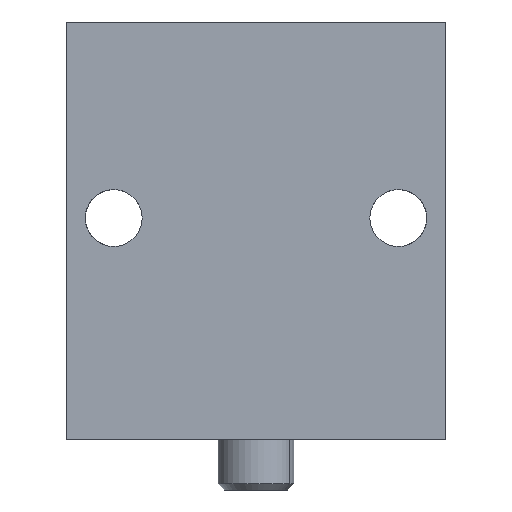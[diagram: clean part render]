
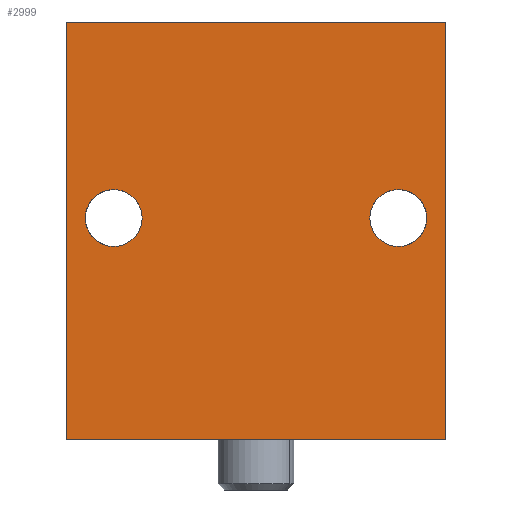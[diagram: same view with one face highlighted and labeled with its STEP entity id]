
A CAD part, front view. The second image highlights one B-rep face of the part: STEP entity #2999.
In plain terms, the highlighted planar face has unit normal (0, -1, 0).
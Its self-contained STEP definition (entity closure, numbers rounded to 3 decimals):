
#332 = DIRECTION ( 'NONE',  ( -1., 0., 0. ) ) ;
#389 = DIRECTION ( 'NONE',  ( 1., 0., 0. ) ) ;
#541 = ORIENTED_EDGE ( 'NONE', *, *, #15201, .T. ) ;
#599 = DIRECTION ( 'NONE',  ( 0., 1., 0. ) ) ;
#954 = VECTOR ( 'NONE', #15921, 1000. ) ;
#1251 = EDGE_CURVE ( 'NONE', #5444, #1320, #1851, .T. ) ;
#1320 = VERTEX_POINT ( 'NONE', #11554 ) ;
#1343 = CARTESIAN_POINT ( 'NONE',  ( 30., 0., -26. ) ) ;
#1360 = DIRECTION ( 'NONE',  ( 0., 1., 0. ) ) ;
#1496 = VECTOR ( 'NONE', #389, 1000. ) ;
#1540 = DIRECTION ( 'NONE',  ( 0., 1., 0. ) ) ;
#1851 = LINE ( 'NONE', #8930, #8679 ) ;
#2277 = EDGE_CURVE ( 'NONE', #12255, #17227, #11603, .T. ) ;
#2999 = ADVANCED_FACE ( 'NONE', ( #9437, #12814, #9827 ), #10833, .F. ) ;
#3028 = EDGE_CURVE ( 'NONE', #17227, #5444, #7222, .T. ) ;
#3096 = CARTESIAN_POINT ( 'NONE',  ( -30., 0., -26. ) ) ;
#3238 = ORIENTED_EDGE ( 'NONE', *, *, #3028, .F. ) ;
#3446 = CARTESIAN_POINT ( 'NONE',  ( -22.5, 0., 4.5 ) ) ;
#3596 = DIRECTION ( 'NONE',  ( 0., 0., 1. ) ) ;
#3727 = EDGE_LOOP ( 'NONE', ( #6651, #541 ) ) ;
#3895 = ORIENTED_EDGE ( 'NONE', *, *, #2277, .F. ) ;
#3919 = CARTESIAN_POINT ( 'NONE',  ( -30., 0., -26. ) ) ;
#4453 = EDGE_CURVE ( 'NONE', #11514, #6748, #11773, .T. ) ;
#4624 = AXIS2_PLACEMENT_3D ( 'NONE', #6283, #15350, #7616 ) ;
#5444 = VERTEX_POINT ( 'NONE', #3919 ) ;
#5608 = EDGE_CURVE ( 'NONE', #12109, #13307, #14463, .T. ) ;
#5788 = AXIS2_PLACEMENT_3D ( 'NONE', #6553, #15599, #7870 ) ;
#5981 = CARTESIAN_POINT ( 'NONE',  ( -30., 0., 40. ) ) ;
#6112 = ORIENTED_EDGE ( 'NONE', *, *, #1251, .F. ) ;
#6215 = CARTESIAN_POINT ( 'NONE',  ( 22.5, 0., 4.5 ) ) ;
#6283 = CARTESIAN_POINT ( 'NONE',  ( -22.5, 0., 9. ) ) ;
#6553 = CARTESIAN_POINT ( 'NONE',  ( 22.5, 0., 9. ) ) ;
#6651 = ORIENTED_EDGE ( 'NONE', *, *, #5608, .T. ) ;
#6748 = VERTEX_POINT ( 'NONE', #3446 ) ;
#7222 = LINE ( 'NONE', #3096, #16302 ) ;
#7616 = DIRECTION ( 'NONE',  ( 0., 0., 1. ) ) ;
#7870 = DIRECTION ( 'NONE',  ( 0., 0., 1. ) ) ;
#8134 = AXIS2_PLACEMENT_3D ( 'NONE', #8808, #599, #10069 ) ;
#8288 = ORIENTED_EDGE ( 'NONE', *, *, #9383, .F. ) ;
#8472 = CARTESIAN_POINT ( 'NONE',  ( 0., 0., 0. ) ) ;
#8679 = VECTOR ( 'NONE', #3596, 1000. ) ;
#8808 = CARTESIAN_POINT ( 'NONE',  ( -22.5, 0., 9. ) ) ;
#8930 = CARTESIAN_POINT ( 'NONE',  ( -30., 0., -26. ) ) ;
#9383 = EDGE_CURVE ( 'NONE', #1320, #12255, #15604, .T. ) ;
#9437 = FACE_BOUND ( 'NONE', #17031, .T. ) ;
#9467 = CARTESIAN_POINT ( 'NONE',  ( 22.5, 0., 9. ) ) ;
#9636 = CIRCLE ( 'NONE', #11647, 4.5 ) ;
#9734 = DIRECTION ( 'NONE',  ( 0., 0., 1. ) ) ;
#9827 = FACE_OUTER_BOUND ( 'NONE', #12294, .T. ) ;
#10069 = DIRECTION ( 'NONE',  ( 0., 0., 1. ) ) ;
#10211 = ORIENTED_EDGE ( 'NONE', *, *, #4453, .T. ) ;
#10323 = EDGE_CURVE ( 'NONE', #6748, #11514, #10888, .T. ) ;
#10731 = DIRECTION ( 'NONE',  ( 0., 0., 1. ) ) ;
#10833 = PLANE ( 'NONE',  #11694 ) ;
#10888 = CIRCLE ( 'NONE', #8134, 4.5 ) ;
#11514 = VERTEX_POINT ( 'NONE', #12309 ) ;
#11554 = CARTESIAN_POINT ( 'NONE',  ( -30., 0., 40. ) ) ;
#11603 = LINE ( 'NONE', #17270, #954 ) ;
#11647 = AXIS2_PLACEMENT_3D ( 'NONE', #9467, #1360, #10731 ) ;
#11694 = AXIS2_PLACEMENT_3D ( 'NONE', #8472, #1540, #9734 ) ;
#11773 = CIRCLE ( 'NONE', #4624, 4.5 ) ;
#12109 = VERTEX_POINT ( 'NONE', #15390 ) ;
#12255 = VERTEX_POINT ( 'NONE', #13626 ) ;
#12294 = EDGE_LOOP ( 'NONE', ( #6112, #3238, #3895, #8288 ) ) ;
#12309 = CARTESIAN_POINT ( 'NONE',  ( -22.5, 0., 13.5 ) ) ;
#12814 = FACE_BOUND ( 'NONE', #3727, .T. ) ;
#13307 = VERTEX_POINT ( 'NONE', #6215 ) ;
#13626 = CARTESIAN_POINT ( 'NONE',  ( 30., 0., 40. ) ) ;
#14463 = CIRCLE ( 'NONE', #5788, 4.5 ) ;
#15013 = ORIENTED_EDGE ( 'NONE', *, *, #10323, .T. ) ;
#15201 = EDGE_CURVE ( 'NONE', #13307, #12109, #9636, .T. ) ;
#15350 = DIRECTION ( 'NONE',  ( 0., 1., 0. ) ) ;
#15390 = CARTESIAN_POINT ( 'NONE',  ( 22.5, 0., 13.5 ) ) ;
#15599 = DIRECTION ( 'NONE',  ( 0., 1., 0. ) ) ;
#15604 = LINE ( 'NONE', #5981, #1496 ) ;
#15921 = DIRECTION ( 'NONE',  ( 0., 0., -1. ) ) ;
#16302 = VECTOR ( 'NONE', #332, 1000. ) ;
#17031 = EDGE_LOOP ( 'NONE', ( #10211, #15013 ) ) ;
#17227 = VERTEX_POINT ( 'NONE', #1343 ) ;
#17270 = CARTESIAN_POINT ( 'NONE',  ( 30., 0., -26. ) ) ;
